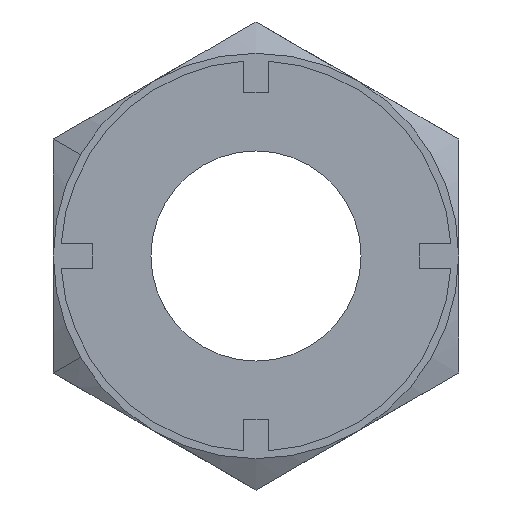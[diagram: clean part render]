
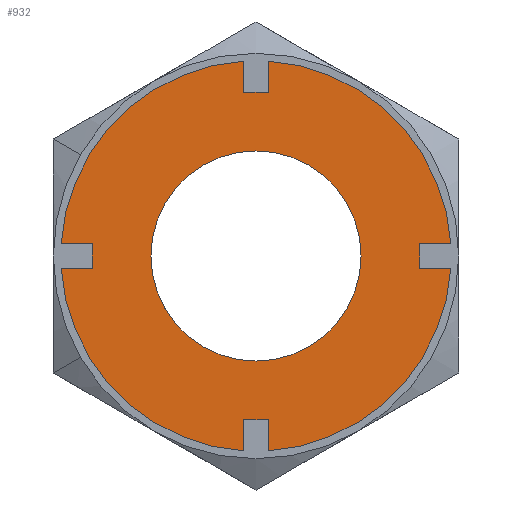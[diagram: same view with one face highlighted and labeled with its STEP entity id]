
A CAD part, left-side view. The second image highlights one B-rep face of the part: STEP entity #932.
In plain terms, the highlighted planar face has unit normal (-1, 0, 0).
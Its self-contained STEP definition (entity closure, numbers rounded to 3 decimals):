
#130=CARTESIAN_POINT('',(-22.0,0.,7.));
#131=VERTEX_POINT('',#130);
#140=CARTESIAN_POINT('',(-22.0,7.,0.0));
#141=VERTEX_POINT('',#140);
#142=CARTESIAN_POINT('',(-22.0,0.0,0.0));
#143=DIRECTION('',(1.0,0.0,0.0));
#144=DIRECTION('',(0.0,1.0,0.0));
#145=AXIS2_PLACEMENT_3D('',#142,#143,#144);
#146=CIRCLE('',#145,7.);
#147=EDGE_CURVE('',#141,#131,#146,.T.);
#332=CARTESIAN_POINT('',(-22.0,0.,-7.));
#333=VERTEX_POINT('',#332);
#342=CARTESIAN_POINT('',(-22.0,-7.,0.));
#343=VERTEX_POINT('',#342);
#344=CARTESIAN_POINT('',(-22.0,0.0,0.0));
#345=DIRECTION('',(1.0,0.0,0.0));
#346=DIRECTION('',(0.0,1.0,0.0));
#347=AXIS2_PLACEMENT_3D('',#344,#345,#346);
#348=CIRCLE('',#347,7.);
#349=EDGE_CURVE('',#343,#333,#348,.T.);
#383=CARTESIAN_POINT('',(-22.0,0.0,0.0));
#384=DIRECTION('',(1.0,0.0,0.0));
#385=DIRECTION('',(0.0,1.0,0.0));
#386=AXIS2_PLACEMENT_3D('',#383,#384,#385);
#387=CIRCLE('',#386,7.);
#388=EDGE_CURVE('',#333,#141,#387,.T.);
#400=CARTESIAN_POINT('',(-22.0,12.975,0.8));
#401=VERTEX_POINT('',#400);
#416=CARTESIAN_POINT('',(-22.0,10.9,0.8));
#417=VERTEX_POINT('',#416);
#424=CARTESIAN_POINT('',(-22.0,12.975,0.8));
#425=DIRECTION('',(0.0,-1.0,0.0));
#426=VECTOR('',#425,2.075);
#427=LINE('',#424,#426);
#428=EDGE_CURVE('',#401,#417,#427,.T.);
#438=CARTESIAN_POINT('',(-22.0,12.975,-0.8));
#439=VERTEX_POINT('',#438);
#448=CARTESIAN_POINT('',(-22.0,10.9,-0.8));
#449=VERTEX_POINT('',#448);
#450=CARTESIAN_POINT('',(-22.0,10.9,-0.8));
#451=DIRECTION('',(0.0,1.0,0.0));
#452=VECTOR('',#451,2.075);
#453=LINE('',#450,#452);
#454=EDGE_CURVE('',#449,#439,#453,.T.);
#485=CARTESIAN_POINT('',(-22.0,10.9,0.8));
#486=DIRECTION('',(0.0,0.0,-1.0));
#487=VECTOR('',#486,1.6);
#488=LINE('',#485,#487);
#489=EDGE_CURVE('',#417,#449,#488,.T.);
#502=CARTESIAN_POINT('',(-22.0,-0.8,12.975));
#503=VERTEX_POINT('',#502);
#518=CARTESIAN_POINT('',(-22.0,-0.8,10.9));
#519=VERTEX_POINT('',#518);
#526=CARTESIAN_POINT('',(-22.0,-0.8,12.975));
#527=DIRECTION('',(0.0,0.0,-1.0));
#528=VECTOR('',#527,2.075);
#529=LINE('',#526,#528);
#530=EDGE_CURVE('',#503,#519,#529,.T.);
#540=CARTESIAN_POINT('',(-22.0,0.8,12.975));
#541=VERTEX_POINT('',#540);
#550=CARTESIAN_POINT('',(-22.0,0.8,10.9));
#551=VERTEX_POINT('',#550);
#552=CARTESIAN_POINT('',(-22.0,0.8,10.9));
#553=DIRECTION('',(0.0,0.0,1.0));
#554=VECTOR('',#553,2.075);
#555=LINE('',#552,#554);
#556=EDGE_CURVE('',#551,#541,#555,.T.);
#587=CARTESIAN_POINT('',(-22.0,-0.8,10.9));
#588=DIRECTION('',(0.0,1.0,0.0));
#589=VECTOR('',#588,1.6);
#590=LINE('',#587,#589);
#591=EDGE_CURVE('',#519,#551,#590,.T.);
#604=CARTESIAN_POINT('',(-22.0,-12.975,-0.8));
#605=VERTEX_POINT('',#604);
#620=CARTESIAN_POINT('',(-22.0,-10.9,-0.8));
#621=VERTEX_POINT('',#620);
#628=CARTESIAN_POINT('',(-22.0,-12.975,-0.8));
#629=DIRECTION('',(0.0,1.0,0.0));
#630=VECTOR('',#629,2.075);
#631=LINE('',#628,#630);
#632=EDGE_CURVE('',#605,#621,#631,.T.);
#642=CARTESIAN_POINT('',(-22.0,-12.975,0.8));
#643=VERTEX_POINT('',#642);
#652=CARTESIAN_POINT('',(-22.0,-10.9,0.8));
#653=VERTEX_POINT('',#652);
#654=CARTESIAN_POINT('',(-22.0,-10.9,0.8));
#655=DIRECTION('',(0.0,-1.0,0.0));
#656=VECTOR('',#655,2.075);
#657=LINE('',#654,#656);
#658=EDGE_CURVE('',#653,#643,#657,.T.);
#689=CARTESIAN_POINT('',(-22.0,-10.9,-0.8));
#690=DIRECTION('',(0.0,0.0,1.0));
#691=VECTOR('',#690,1.6);
#692=LINE('',#689,#691);
#693=EDGE_CURVE('',#621,#653,#692,.T.);
#706=CARTESIAN_POINT('',(-22.0,0.8,-12.975));
#707=VERTEX_POINT('',#706);
#722=CARTESIAN_POINT('',(-22.0,0.8,-10.9));
#723=VERTEX_POINT('',#722);
#730=CARTESIAN_POINT('',(-22.0,0.8,-12.975));
#731=DIRECTION('',(0.0,0.0,1.0));
#732=VECTOR('',#731,2.075);
#733=LINE('',#730,#732);
#734=EDGE_CURVE('',#707,#723,#733,.T.);
#744=CARTESIAN_POINT('',(-22.0,-0.8,-12.975));
#745=VERTEX_POINT('',#744);
#754=CARTESIAN_POINT('',(-22.0,-0.8,-10.9));
#755=VERTEX_POINT('',#754);
#756=CARTESIAN_POINT('',(-22.0,-0.8,-10.9));
#757=DIRECTION('',(0.0,0.0,-1.0));
#758=VECTOR('',#757,2.075);
#759=LINE('',#756,#758);
#760=EDGE_CURVE('',#755,#745,#759,.T.);
#791=CARTESIAN_POINT('',(-22.0,0.8,-10.9));
#792=DIRECTION('',(0.0,-1.0,0.0));
#793=VECTOR('',#792,1.6);
#794=LINE('',#791,#793);
#795=EDGE_CURVE('',#723,#755,#794,.T.);
#807=CARTESIAN_POINT('',(-22.0,0.0,0.0));
#808=DIRECTION('',(1.0,0.0,0.0));
#809=DIRECTION('',(0.0,1.0,0.0));
#810=AXIS2_PLACEMENT_3D('',#807,#808,#809);
#811=CIRCLE('',#810,13.0);
#812=EDGE_CURVE('',#605,#745,#811,.T.);
#831=CARTESIAN_POINT('',(-22.0,0.0,0.0));
#832=DIRECTION('',(1.0,0.0,0.0));
#833=DIRECTION('',(0.0,1.0,0.0));
#834=AXIS2_PLACEMENT_3D('',#831,#832,#833);
#835=CIRCLE('',#834,13.0);
#836=EDGE_CURVE('',#503,#643,#835,.T.);
#863=CARTESIAN_POINT('',(-22.0,0.0,0.0));
#864=DIRECTION('',(1.0,0.0,0.0));
#865=DIRECTION('',(0.0,1.0,0.0));
#866=AXIS2_PLACEMENT_3D('',#863,#864,#865);
#867=CIRCLE('',#866,13.0);
#868=EDGE_CURVE('',#707,#439,#867,.T.);
#879=CARTESIAN_POINT('',(-22.0,0.0,0.0));
#880=DIRECTION('',(1.0,0.0,0.0));
#881=DIRECTION('',(0.0,1.0,0.0));
#882=AXIS2_PLACEMENT_3D('',#879,#880,#881);
#883=CIRCLE('',#882,13.0);
#884=EDGE_CURVE('',#401,#541,#883,.T.);
#897=CARTESIAN_POINT('',(-22.0,-14.273,-14.273));
#898=DIRECTION('',(-1.0,0.0,0.0));
#899=DIRECTION('',(0.0,0.0,1.0));
#900=AXIS2_PLACEMENT_3D('',#897,#898,#899);
#901=PLANE('',#900);
#902=ORIENTED_EDGE('',*,*,#428,.T.);
#903=ORIENTED_EDGE('',*,*,#489,.T.);
#904=ORIENTED_EDGE('',*,*,#454,.T.);
#905=ORIENTED_EDGE('',*,*,#868,.F.);
#906=ORIENTED_EDGE('',*,*,#734,.T.);
#907=ORIENTED_EDGE('',*,*,#795,.T.);
#908=ORIENTED_EDGE('',*,*,#760,.T.);
#909=ORIENTED_EDGE('',*,*,#812,.F.);
#910=ORIENTED_EDGE('',*,*,#632,.T.);
#911=ORIENTED_EDGE('',*,*,#693,.T.);
#912=ORIENTED_EDGE('',*,*,#658,.T.);
#913=ORIENTED_EDGE('',*,*,#836,.F.);
#914=ORIENTED_EDGE('',*,*,#530,.T.);
#915=ORIENTED_EDGE('',*,*,#591,.T.);
#916=ORIENTED_EDGE('',*,*,#556,.T.);
#917=ORIENTED_EDGE('',*,*,#884,.F.);
#918=EDGE_LOOP('',(#902,#903,#904,#905,#906,#907,#908,#909,#910,#911,#912,#913,#914,#915,#916,#917));
#919=FACE_OUTER_BOUND('',#918,.T.);
#920=ORIENTED_EDGE('',*,*,#147,.T.);
#921=CARTESIAN_POINT('',(-22.0,0.0,0.0));
#922=DIRECTION('',(1.0,0.0,0.0));
#923=DIRECTION('',(0.0,1.0,0.0));
#924=AXIS2_PLACEMENT_3D('',#921,#922,#923);
#925=CIRCLE('',#924,7.);
#926=EDGE_CURVE('',#131,#343,#925,.T.);
#927=ORIENTED_EDGE('',*,*,#926,.T.);
#928=ORIENTED_EDGE('',*,*,#349,.T.);
#929=ORIENTED_EDGE('',*,*,#388,.T.);
#930=EDGE_LOOP('',(#920,#927,#928,#929));
#931=FACE_BOUND('',#930,.T.);
#932=ADVANCED_FACE('',(#919,#931),#901,.T.);
